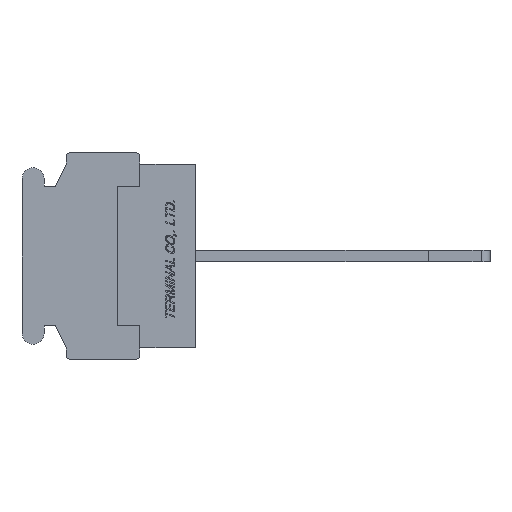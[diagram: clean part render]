
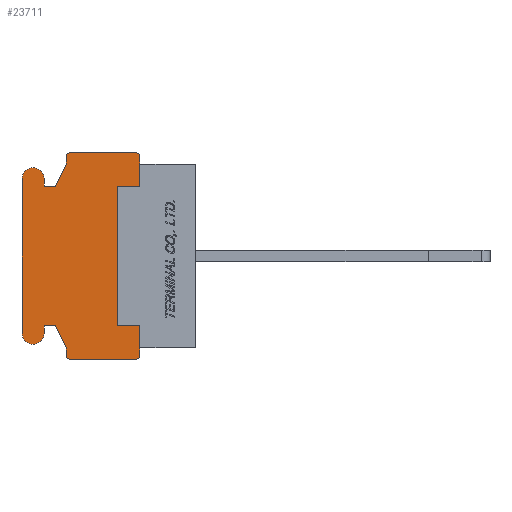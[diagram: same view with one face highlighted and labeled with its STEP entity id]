
A CAD part, left-side view. The second image highlights one B-rep face of the part: STEP entity #23711.
In plain terms, the highlighted planar face has unit normal (-1, 0, 0).
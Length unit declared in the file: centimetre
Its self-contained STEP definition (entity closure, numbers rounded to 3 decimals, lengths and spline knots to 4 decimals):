
#1212=CIRCLE('',#39881,0.02);
#1213=CIRCLE('',#39885,0.02);
#1214=CIRCLE('',#39888,0.02);
#1215=CIRCLE('',#39894,0.075);
#1216=CIRCLE('',#39897,0.075);
#1217=CIRCLE('',#39903,0.02);
#3240=VERTEX_POINT('',#36806);
#3241=VERTEX_POINT('',#36808);
#3242=VERTEX_POINT('',#36812);
#3243=VERTEX_POINT('',#36816);
#3244=VERTEX_POINT('',#36818);
#3245=VERTEX_POINT('',#36822);
#3246=VERTEX_POINT('',#36826);
#3247=VERTEX_POINT('',#36830);
#3248=VERTEX_POINT('',#36834);
#3249=VERTEX_POINT('',#36838);
#3250=VERTEX_POINT('',#36842);
#3251=VERTEX_POINT('',#36846);
#3252=VERTEX_POINT('',#36850);
#3253=VERTEX_POINT('',#36854);
#3254=VERTEX_POINT('',#36858);
#3255=VERTEX_POINT('',#36862);
#3256=VERTEX_POINT('',#36866);
#3257=VERTEX_POINT('',#36870);
#3258=VERTEX_POINT('',#36874);
#3259=VERTEX_POINT('',#36878);
#3260=VERTEX_POINT('',#36884);
#3261=VERTEX_POINT('',#36886);
#3262=VERTEX_POINT('',#36888);
#3263=VERTEX_POINT('',#36890);
#5810=VECTOR('',#29243,1.);
#5812=VECTOR('',#29246,1.);
#5816=VECTOR('',#29255,1.);
#5819=VECTOR('',#29263,1.);
#5821=VECTOR('',#29266,1.);
#5823=VECTOR('',#29269,1.);
#5825=VECTOR('',#29272,1.);
#5828=VECTOR('',#29280,1.);
#5831=VECTOR('',#29288,1.);
#5833=VECTOR('',#29291,1.);
#5835=VECTOR('',#29294,1.);
#5837=VECTOR('',#29297,1.);
#5839=VECTOR('',#29304,1.);
#5840=VECTOR('',#29306,1.);
#5841=VECTOR('',#29307,1.);
#5842=VECTOR('',#29308,1.);
#5843=VECTOR('',#29309,1.);
#5844=VECTOR('',#29310,1.);
#8458=LINE('',#36813,#5810);
#8460=LINE('',#36817,#5812);
#8464=LINE('',#36827,#5816);
#8467=LINE('',#36835,#5819);
#8469=LINE('',#36839,#5821);
#8471=LINE('',#36843,#5823);
#8473=LINE('',#36847,#5825);
#8476=LINE('',#36855,#5828);
#8479=LINE('',#36863,#5831);
#8481=LINE('',#36867,#5833);
#8483=LINE('',#36871,#5835);
#8485=LINE('',#36875,#5837);
#8487=LINE('',#36881,#5839);
#8488=LINE('',#36883,#5840);
#8489=LINE('',#36885,#5841);
#8490=LINE('',#36887,#5842);
#8491=LINE('',#36889,#5843);
#8492=LINE('',#36891,#5844);
#11950=EDGE_CURVE('',#3240,#3241,#1212,.T.);
#11953=EDGE_CURVE('',#3242,#3240,#8458,.T.);
#11955=EDGE_CURVE('',#3243,#3244,#8460,.T.);
#11958=EDGE_CURVE('',#3245,#3243,#1213,.T.);
#11960=EDGE_CURVE('',#3246,#3245,#8464,.T.);
#11962=EDGE_CURVE('',#3247,#3246,#1214,.T.);
#11964=EDGE_CURVE('',#3248,#3247,#8467,.T.);
#11966=EDGE_CURVE('',#3249,#3248,#8469,.T.);
#11968=EDGE_CURVE('',#3250,#3249,#8471,.T.);
#11970=EDGE_CURVE('',#3251,#3250,#8473,.T.);
#11972=EDGE_CURVE('',#3252,#3251,#1215,.T.);
#11974=EDGE_CURVE('',#3253,#3252,#8476,.T.);
#11976=EDGE_CURVE('',#3254,#3253,#1216,.T.);
#11978=EDGE_CURVE('',#3255,#3254,#8479,.T.);
#11980=EDGE_CURVE('',#3256,#3255,#8481,.T.);
#11982=EDGE_CURVE('',#3257,#3256,#8483,.T.);
#11984=EDGE_CURVE('',#3258,#3257,#8485,.T.);
#11986=EDGE_CURVE('',#3259,#3258,#1217,.T.);
#11987=EDGE_CURVE('',#3241,#3259,#8487,.T.);
#11988=EDGE_CURVE('',#3260,#3244,#8488,.T.);
#11989=EDGE_CURVE('',#3242,#3261,#8489,.T.);
#11990=EDGE_CURVE('',#3261,#3262,#8490,.T.);
#11991=EDGE_CURVE('',#3262,#3263,#8491,.T.);
#11992=EDGE_CURVE('',#3263,#3260,#8492,.T.);
#18596=ORIENTED_EDGE('',*,*,#11988,.T.);
#18597=ORIENTED_EDGE('',*,*,#11955,.F.);
#18598=ORIENTED_EDGE('',*,*,#11958,.F.);
#18599=ORIENTED_EDGE('',*,*,#11960,.F.);
#18600=ORIENTED_EDGE('',*,*,#11962,.F.);
#18601=ORIENTED_EDGE('',*,*,#11964,.F.);
#18602=ORIENTED_EDGE('',*,*,#11966,.F.);
#18603=ORIENTED_EDGE('',*,*,#11968,.F.);
#18604=ORIENTED_EDGE('',*,*,#11970,.F.);
#18605=ORIENTED_EDGE('',*,*,#11972,.F.);
#18606=ORIENTED_EDGE('',*,*,#11974,.F.);
#18607=ORIENTED_EDGE('',*,*,#11976,.F.);
#18608=ORIENTED_EDGE('',*,*,#11978,.F.);
#18609=ORIENTED_EDGE('',*,*,#11980,.F.);
#18610=ORIENTED_EDGE('',*,*,#11982,.F.);
#18611=ORIENTED_EDGE('',*,*,#11984,.F.);
#18612=ORIENTED_EDGE('',*,*,#11986,.F.);
#18613=ORIENTED_EDGE('',*,*,#11987,.F.);
#18614=ORIENTED_EDGE('',*,*,#11950,.F.);
#18615=ORIENTED_EDGE('',*,*,#11953,.F.);
#18616=ORIENTED_EDGE('',*,*,#11989,.T.);
#18617=ORIENTED_EDGE('',*,*,#11990,.T.);
#18618=ORIENTED_EDGE('',*,*,#11991,.T.);
#18619=ORIENTED_EDGE('',*,*,#11992,.T.);
#20919=EDGE_LOOP('',(#18596,#18597,#18598,#18599,#18600,#18601,#18602,#18603,
#18604,#18605,#18606,#18607,#18608,#18609,#18610,#18611,#18612,#18613,#18614,
#18615,#18616,#18617,#18618,#18619));
#22353=FACE_BOUND('',#20919,.T.);
#23711=ADVANCED_FACE('',(#22353),#24715,.F.);
#24715=PLANE('',#39905);
#29238=DIRECTION('',(1.,0.,0.));
#29239=DIRECTION('',(0.,0.,-0.02));
#29243=DIRECTION('',(0.,0.,-1.));
#29246=DIRECTION('',(0.,0.,-1.));
#29251=DIRECTION('',(1.,0.,0.));
#29252=DIRECTION('',(0.,0.,-0.02));
#29255=DIRECTION('',(0.,-1.,0.));
#29259=DIRECTION('',(1.,0.,0.));
#29260=DIRECTION('',(0.,0.,-0.02));
#29263=DIRECTION('',(0.,0.,1.));
#29266=DIRECTION('',(0.,-0.447,0.894));
#29269=DIRECTION('',(0.,-1.,0.));
#29272=DIRECTION('',(0.,0.,-1.));
#29276=DIRECTION('',(1.,0.,0.));
#29277=DIRECTION('',(0.,0.,-0.075));
#29280=DIRECTION('',(0.,0.,1.));
#29284=DIRECTION('',(1.,0.,0.));
#29285=DIRECTION('',(0.,0.,-0.075));
#29288=DIRECTION('',(0.,0.,-1.));
#29291=DIRECTION('',(0.,1.,0.));
#29294=DIRECTION('',(0.,0.447,0.894));
#29297=DIRECTION('',(0.,0.,1.));
#29301=DIRECTION('',(1.,0.,0.));
#29302=DIRECTION('',(0.,0.,-0.02));
#29304=DIRECTION('',(0.,1.,0.));
#29305=DIRECTION('',(1.,0.,0.));
#29306=DIRECTION('',(0.,0.,1.));
#29307=DIRECTION('',(0.,0.,1.));
#29308=DIRECTION('',(0.,1.,0.));
#29309=DIRECTION('',(0.,0.,1.));
#29310=DIRECTION('',(0.,-1.,0.));
#36806=CARTESIAN_POINT('',(-0.762,0.38,-0.68));
#36807=CARTESIAN_POINT('',(-0.762,0.4,-0.68));
#36808=CARTESIAN_POINT('',(-0.762,0.4,-0.7));
#36812=CARTESIAN_POINT('',(-0.762,0.38,-0.625));
#36813=CARTESIAN_POINT('',(-0.762,0.38,-0.625));
#36816=CARTESIAN_POINT('',(-0.762,0.38,0.68));
#36817=CARTESIAN_POINT('',(-0.762,0.38,0.68));
#36818=CARTESIAN_POINT('',(-0.762,0.38,0.625));
#36822=CARTESIAN_POINT('',(-0.762,0.4,0.7));
#36823=CARTESIAN_POINT('',(-0.762,0.4,0.68));
#36826=CARTESIAN_POINT('',(-0.762,0.86,0.7));
#36827=CARTESIAN_POINT('',(-0.762,0.86,0.7));
#36830=CARTESIAN_POINT('',(-0.762,0.88,0.68));
#36831=CARTESIAN_POINT('',(-0.762,0.86,0.68));
#36834=CARTESIAN_POINT('',(-0.762,0.88,0.625));
#36835=CARTESIAN_POINT('',(-0.762,0.88,0.625));
#36838=CARTESIAN_POINT('',(-0.762,0.955,0.475));
#36839=CARTESIAN_POINT('',(-0.762,0.955,0.475));
#36842=CARTESIAN_POINT('',(-0.762,1.03,0.475));
#36843=CARTESIAN_POINT('',(-0.762,1.03,0.475));
#36846=CARTESIAN_POINT('',(-0.762,1.03,0.525));
#36847=CARTESIAN_POINT('',(-0.762,1.03,0.525));
#36850=CARTESIAN_POINT('',(-0.762,1.18,0.525));
#36851=CARTESIAN_POINT('',(-0.762,1.105,0.525));
#36854=CARTESIAN_POINT('',(-0.762,1.18,-0.525));
#36855=CARTESIAN_POINT('',(-0.762,1.18,-0.525));
#36858=CARTESIAN_POINT('',(-0.762,1.03,-0.525));
#36859=CARTESIAN_POINT('',(-0.762,1.105,-0.525));
#36862=CARTESIAN_POINT('',(-0.762,1.03,-0.475));
#36863=CARTESIAN_POINT('',(-0.762,1.03,-0.475));
#36866=CARTESIAN_POINT('',(-0.762,0.955,-0.475));
#36867=CARTESIAN_POINT('',(-0.762,0.955,-0.475));
#36870=CARTESIAN_POINT('',(-0.762,0.88,-0.625));
#36871=CARTESIAN_POINT('',(-0.762,0.88,-0.625));
#36874=CARTESIAN_POINT('',(-0.762,0.88,-0.68));
#36875=CARTESIAN_POINT('',(-0.762,0.88,-0.68));
#36878=CARTESIAN_POINT('',(-0.762,0.86,-0.7));
#36879=CARTESIAN_POINT('',(-0.762,0.86,-0.68));
#36881=CARTESIAN_POINT('',(-0.762,0.4,-0.7));
#36882=CARTESIAN_POINT('',(-0.762,0.6059,0.));
#36883=CARTESIAN_POINT('',(-0.762,0.38,0.475));
#36884=CARTESIAN_POINT('',(-0.762,0.38,0.475));
#36885=CARTESIAN_POINT('',(-0.762,0.38,-0.625));
#36886=CARTESIAN_POINT('',(-0.762,0.38,-0.475));
#36887=CARTESIAN_POINT('',(-0.762,0.38,-0.475));
#36888=CARTESIAN_POINT('',(-0.762,0.53,-0.475));
#36889=CARTESIAN_POINT('',(-0.762,0.53,-0.475));
#36890=CARTESIAN_POINT('',(-0.762,0.53,0.475));
#36891=CARTESIAN_POINT('',(-0.762,0.53,0.475));
#39881=AXIS2_PLACEMENT_3D('',#36807,#29238,#29239);
#39885=AXIS2_PLACEMENT_3D('',#36823,#29251,#29252);
#39888=AXIS2_PLACEMENT_3D('',#36831,#29259,#29260);
#39894=AXIS2_PLACEMENT_3D('',#36851,#29276,#29277);
#39897=AXIS2_PLACEMENT_3D('',#36859,#29284,#29285);
#39903=AXIS2_PLACEMENT_3D('',#36879,#29301,#29302);
#39905=AXIS2_PLACEMENT_3D('',#36882,#29305,$);
